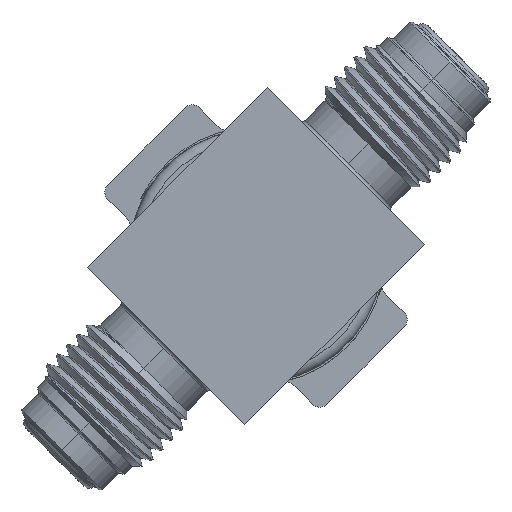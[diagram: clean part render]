
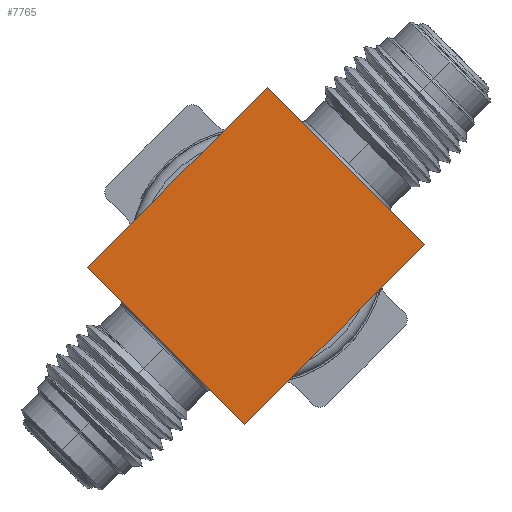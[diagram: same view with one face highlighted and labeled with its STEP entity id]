
A CAD part, front view. The second image highlights one B-rep face of the part: STEP entity #7765.
In plain terms, the highlighted planar face has unit normal (0, -1, 0) as drawn and (0, 0, -1) by its records, which use the part's own axes.
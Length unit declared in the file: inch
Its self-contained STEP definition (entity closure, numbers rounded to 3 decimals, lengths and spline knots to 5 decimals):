
#129 = AXIS2_PLACEMENT_3D ( 'NONE', #8774, #16942, #10514 ) ;
#1216 = DIRECTION ( 'NONE',  ( 1., 0., 0. ) ) ;
#2476 = VECTOR ( 'NONE', #11588, 39.37008 ) ;
#2612 = CARTESIAN_POINT ( 'NONE',  ( 0.5, -0.4375, 0. ) ) ;
#2643 = PLANE ( 'NONE',  #129 ) ;
#2970 = VERTEX_POINT ( 'NONE', #19928 ) ;
#4899 = VECTOR ( 'NONE', #1216, 39.37008 ) ;
#5071 = VERTEX_POINT ( 'NONE', #21233 ) ;
#5623 = LINE ( 'NONE', #21634, #4899 ) ;
#6158 = VERTEX_POINT ( 'NONE', #18368 ) ;
#7765 = ADVANCED_FACE ( 'NONE', ( #18540 ), #2643, .T. ) ;
#7879 = EDGE_CURVE ( 'NONE', #11606, #5071, #20904, .T. ) ;
#7908 = EDGE_LOOP ( 'NONE', ( #14459, #8190, #20928, #22424 ) ) ;
#7957 = LINE ( 'NONE', #24002, #2476 ) ;
#8190 = ORIENTED_EDGE ( 'NONE', *, *, #9619, .T. ) ;
#8774 = CARTESIAN_POINT ( 'NONE',  ( -0.5, -0.4375, 0. ) ) ;
#9619 = EDGE_CURVE ( 'NONE', #6158, #2970, #5623, .T. ) ;
#10360 = VECTOR ( 'NONE', #24207, 39.37008 ) ;
#10514 = DIRECTION ( 'NONE',  ( -1., 0., 0. ) ) ;
#10594 = CARTESIAN_POINT ( 'NONE',  ( 0.5, -0.4375, 0. ) ) ;
#11281 = EDGE_CURVE ( 'NONE', #11606, #2970, #20198, .T. ) ;
#11588 = DIRECTION ( 'NONE',  ( 0., -1., 0. ) ) ;
#11606 = VERTEX_POINT ( 'NONE', #13523 ) ;
#13523 = CARTESIAN_POINT ( 'NONE',  ( 0.5, -0.4375, 0. ) ) ;
#14459 = ORIENTED_EDGE ( 'NONE', *, *, #15437, .F. ) ;
#15437 = EDGE_CURVE ( 'NONE', #6158, #5071, #7957, .T. ) ;
#16438 = VECTOR ( 'NONE', #18483, 39.37008 ) ;
#16942 = DIRECTION ( 'NONE',  ( 0., 0., -1. ) ) ;
#18368 = CARTESIAN_POINT ( 'NONE',  ( -0.5, 0.4375, 0. ) ) ;
#18483 = DIRECTION ( 'NONE',  ( 0., 1., 0. ) ) ;
#18540 = FACE_OUTER_BOUND ( 'NONE', #7908, .T. ) ;
#19928 = CARTESIAN_POINT ( 'NONE',  ( 0.5, 0.4375, 0. ) ) ;
#20198 = LINE ( 'NONE', #10594, #16438 ) ;
#20904 = LINE ( 'NONE', #2612, #10360 ) ;
#20928 = ORIENTED_EDGE ( 'NONE', *, *, #11281, .F. ) ;
#21233 = CARTESIAN_POINT ( 'NONE',  ( -0.5, -0.4375, 0. ) ) ;
#21634 = CARTESIAN_POINT ( 'NONE',  ( -0.5, 0.4375, 0. ) ) ;
#22424 = ORIENTED_EDGE ( 'NONE', *, *, #7879, .T. ) ;
#24002 = CARTESIAN_POINT ( 'NONE',  ( -0.5, 0.4375, 0. ) ) ;
#24207 = DIRECTION ( 'NONE',  ( -1., 0., 0. ) ) ;
